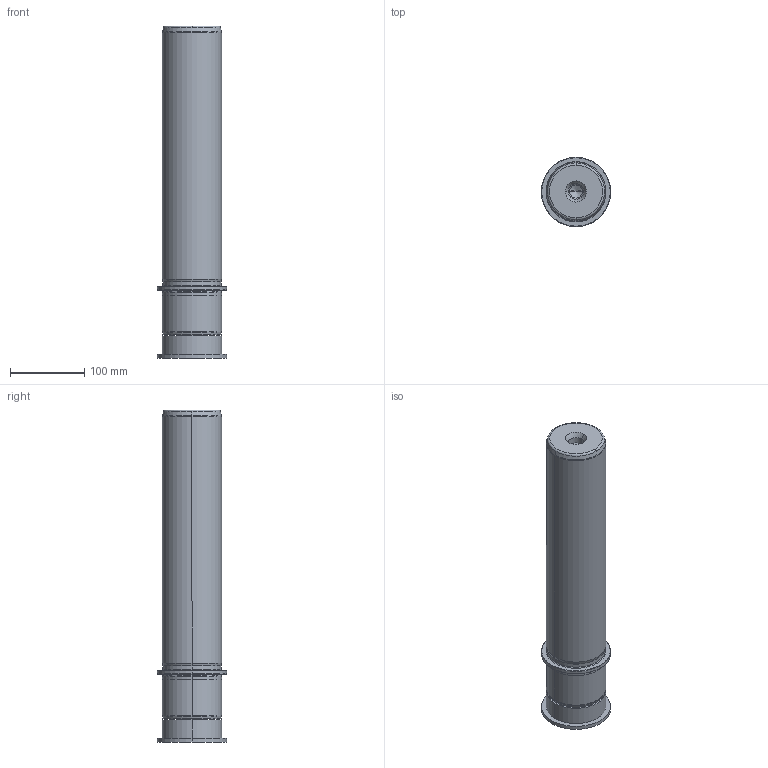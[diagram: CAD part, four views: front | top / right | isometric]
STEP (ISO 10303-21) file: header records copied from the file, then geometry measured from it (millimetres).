
FILE_DESCRIPTION((''),'2;1');
FILE_NAME('P22_080_355.stp','2009-02-03T10:16:35',(''),(''),'Mechanical Desktop 2009','Mechanical Desktop 2009',', , ');
FILE_SCHEMA(('CONFIG_CONTROL_DESIGN'));
Length unit declared in the file: millimetre
Products named in the file (2): Product; blmdl1
Assembly tree (1 placements, depth 2):
  Product
    blmdl1
Bounding box: 93 x 93 x 446 mm (x, y, z)
Volume: 2225890.6 mm3; surface area: 153276.8 mm2
Topology: 3 solids, 3 shells, 99 faces, 237 edges, 149 vertices
Faces by surface type: cylinder 32, cone 28, plane 19, torus 10, bspline 10
Entity records: 3419 total; most frequent: CARTESIAN_POINT 923, DIRECTION 570, ORIENTED_EDGE 466, AXIS2_PLACEMENT_3D 246, EDGE_CURVE 233, CIRCLE 155, VERTEX_POINT 149, EDGE_LOOP 110
